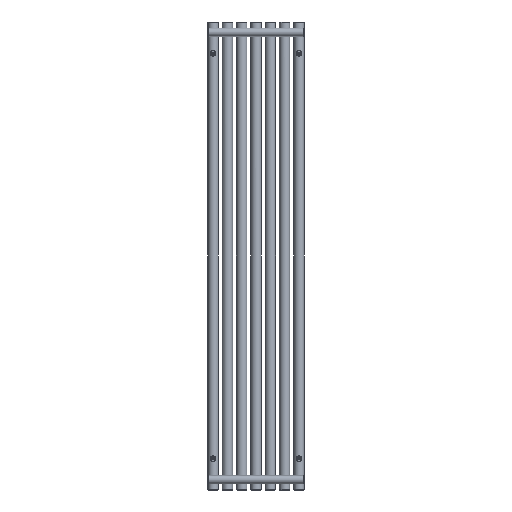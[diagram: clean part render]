
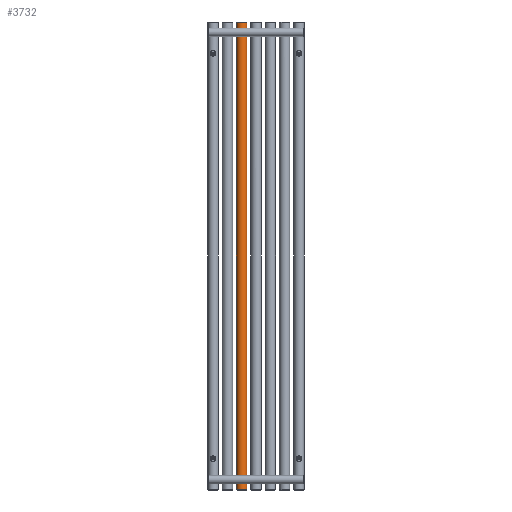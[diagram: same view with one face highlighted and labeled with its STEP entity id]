
A CAD part, front view. The second image highlights one B-rep face of the part: STEP entity #3732.
In plain terms, the highlighted cylindrical face has radius 20 mm (diameter 40 mm), a full revolution.
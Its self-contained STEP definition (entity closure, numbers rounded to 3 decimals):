
#238=FACE_BOUND('',#812,.T.);
#239=FACE_BOUND('',#813,.T.);
#240=FACE_BOUND('',#814,.T.);
#294=LINE('',#6770,#399);
#399=VECTOR('',#4641,20.);
#504=CYLINDRICAL_SURFACE('',#4022,20.);
#562=FACE_OUTER_BOUND('',#811,.T.);
#811=EDGE_LOOP('',(#2578,#2579,#2580,#2581,#2582));
#812=EDGE_LOOP('',(#2583));
#813=EDGE_LOOP('',(#2584));
#814=EDGE_LOOP('',(#2585));
#1107=B_SPLINE_CURVE_WITH_KNOTS('',3,(#6744,#6745,#6746,#6747,#6748,#6749,
#6750,#6751,#6752,#6753,#6754,#6755,#6756,#6757,#6758,#6759,#6760,#6761,
#6762,#6763,#6764),.UNSPECIFIED.,.T.,.F.,(4,1,1,1,1,1,1,1,1,1,1,1,1,1,1,
1,1,1,4),(-5.132,-4.765,-4.399,-4.154,
-3.91,-3.788,-3.666,-3.421,
-3.177,-2.933,-2.688,-2.199,
-1.955,-1.711,-1.466,-1.1,
-0.733,-0.367,0.),.UNSPECIFIED.);
#1108=B_SPLINE_CURVE_WITH_KNOTS('',3,(#6774,#6775,#6776,#6777,#6778,#6779,
#6780,#6781,#6782,#6783,#6784,#6785,#6786,#6787,#6788,#6789,#6790,#6791,
#6792,#6793),.UNSPECIFIED.,.T.,.F.,(4,1,1,1,1,1,1,1,1,1,1,1,1,1,1,1,1,4),
(-5.132,-4.765,-4.399,-4.032,
-3.666,-3.421,-3.177,-2.933,
-2.688,-2.199,-1.955,-1.711,
-1.466,-1.222,-0.978,-0.733,
-0.367,0.),.UNSPECIFIED.);
#1109=B_SPLINE_CURVE_WITH_KNOTS('',3,(#6795,#6796,#6797,#6798,#6799,#6800,
#6801,#6802,#6803,#6804,#6805,#6806,#6807,#6808,#6809,#6810,#6811,#6812),
 .UNSPECIFIED.,.T.,.F.,(4,1,1,1,1,1,1,1,1,1,1,1,1,1,1,4),(-6.15,
-5.711,-5.272,-4.686,-4.393,
-3.807,-3.514,-3.222,-2.929,
-2.636,-2.05,-1.757,-1.318,
-0.879,-0.439,0.),.UNSPECIFIED.);
#1189=CIRCLE('',#4023,20.);
#1190=CIRCLE('',#4024,20.);
#1191=CIRCLE('',#4025,20.);
#1568=VERTEX_POINT('',#6742);
#1569=VERTEX_POINT('',#6766);
#1570=VERTEX_POINT('',#6767);
#1571=VERTEX_POINT('',#6769);
#1572=VERTEX_POINT('',#6773);
#1573=VERTEX_POINT('',#6794);
#1982=EDGE_CURVE('',#1568,#1568,#1107,.T.);
#1983=EDGE_CURVE('',#1569,#1570,#1189,.T.);
#1984=EDGE_CURVE('',#1569,#1571,#294,.T.);
#1985=EDGE_CURVE('',#1571,#1571,#1190,.T.);
#1986=EDGE_CURVE('',#1570,#1569,#1191,.T.);
#1987=EDGE_CURVE('',#1572,#1572,#1108,.T.);
#1988=EDGE_CURVE('',#1573,#1573,#1109,.T.);
#2578=ORIENTED_EDGE('',*,*,#1983,.F.);
#2579=ORIENTED_EDGE('',*,*,#1984,.T.);
#2580=ORIENTED_EDGE('',*,*,#1985,.F.);
#2581=ORIENTED_EDGE('',*,*,#1984,.F.);
#2582=ORIENTED_EDGE('',*,*,#1986,.F.);
#2583=ORIENTED_EDGE('',*,*,#1987,.F.);
#2584=ORIENTED_EDGE('',*,*,#1988,.F.);
#2585=ORIENTED_EDGE('',*,*,#1982,.F.);
#3732=ADVANCED_FACE('',(#562,#238,#239,#240),#504,.T.);
#4022=AXIS2_PLACEMENT_3D('',#6765,#4637,#4638);
#4023=AXIS2_PLACEMENT_3D('',#6768,#4639,#4640);
#4024=AXIS2_PLACEMENT_3D('',#6771,#4642,#4643);
#4025=AXIS2_PLACEMENT_3D('',#6772,#4644,#4645);
#4637=DIRECTION('center_axis',(0.,0.,1.));
#4638=DIRECTION('ref_axis',(-1.,0.,0.));
#4639=DIRECTION('center_axis',(0.,0.,1.));
#4640=DIRECTION('ref_axis',(-1.,0.,0.));
#4641=DIRECTION('',(0.,0.,-1.));
#4642=DIRECTION('center_axis',(0.,0.,-1.));
#4643=DIRECTION('ref_axis',(-1.,0.,0.));
#4644=DIRECTION('center_axis',(0.,0.,1.));
#4645=DIRECTION('ref_axis',(-1.,0.,0.));
#6742=CARTESIAN_POINT('',(-220.,-20.,50.1));
#6744=CARTESIAN_POINT('Ctrl Pts',(-220.,-20.,50.1));
#6745=CARTESIAN_POINT('Ctrl Pts',(-221.611,-20.,50.1));
#6746=CARTESIAN_POINT('Ctrl Pts',(-224.838,-19.598,49.587));
#6747=CARTESIAN_POINT('Ctrl Pts',(-228.411,-18.224,47.307));
#6748=CARTESIAN_POINT('Ctrl Pts',(-230.379,-17.114,44.115));
#6749=CARTESIAN_POINT('Ctrl Pts',(-230.993,-16.707,41.396));
#6750=CARTESIAN_POINT('Ctrl Pts',(-230.992,-16.708,39.163));
#6751=CARTESIAN_POINT('Ctrl Pts',(-230.666,-16.92,36.968));
#6752=CARTESIAN_POINT('Ctrl Pts',(-229.649,-17.552,34.429));
#6753=CARTESIAN_POINT('Ctrl Pts',(-227.534,-18.592,32.083));
#6754=CARTESIAN_POINT('Ctrl Pts',(-224.761,-19.504,30.58));
#6755=CARTESIAN_POINT('Ctrl Pts',(-220.581,-20.198,29.637));
#6756=CARTESIAN_POINT('Ctrl Pts',(-216.165,-19.824,30.09));
#6757=CARTESIAN_POINT('Ctrl Pts',(-212.466,-18.588,32.082));
#6758=CARTESIAN_POINT('Ctrl Pts',(-210.351,-17.556,34.43));
#6759=CARTESIAN_POINT('Ctrl Pts',(-208.927,-16.66,37.98));
#6760=CARTESIAN_POINT('Ctrl Pts',(-208.922,-16.66,42.599));
#6761=CARTESIAN_POINT('Ctrl Pts',(-211.137,-18.052,47.027));
#6762=CARTESIAN_POINT('Ctrl Pts',(-215.165,-19.6,49.585));
#6763=CARTESIAN_POINT('Ctrl Pts',(-218.389,-20.,50.1));
#6764=CARTESIAN_POINT('Ctrl Pts',(-220.,-20.,50.1));
#6765=CARTESIAN_POINT('Origin',(-220.,0.,0.));
#6766=CARTESIAN_POINT('',(-200.,0.,1798.));
#6767=CARTESIAN_POINT('',(-240.,0.,1798.));
#6768=CARTESIAN_POINT('Origin',(-220.,0.,1798.));
#6769=CARTESIAN_POINT('',(-200.,0.,2.));
#6770=CARTESIAN_POINT('',(-200.,0.,0.));
#6771=CARTESIAN_POINT('Origin',(-220.,0.,2.));
#6772=CARTESIAN_POINT('Origin',(-220.,0.,1798.));
#6773=CARTESIAN_POINT('',(-220.,-20.,1770.1));
#6774=CARTESIAN_POINT('Ctrl Pts',(-220.,-20.,1770.1));
#6775=CARTESIAN_POINT('Ctrl Pts',(-221.611,-20.,1770.1));
#6776=CARTESIAN_POINT('Ctrl Pts',(-224.835,-19.6,1769.586));
#6777=CARTESIAN_POINT('Ctrl Pts',(-228.863,-18.052,1767.028));
#6778=CARTESIAN_POINT('Ctrl Pts',(-231.079,-16.659,1762.599));
#6779=CARTESIAN_POINT('Ctrl Pts',(-231.073,-16.66,1757.981));
#6780=CARTESIAN_POINT('Ctrl Pts',(-229.649,-17.552,1754.43));
#6781=CARTESIAN_POINT('Ctrl Pts',(-227.534,-18.59,1752.083));
#6782=CARTESIAN_POINT('Ctrl Pts',(-224.761,-19.502,1750.58));
#6783=CARTESIAN_POINT('Ctrl Pts',(-220.581,-20.202,1749.64));
#6784=CARTESIAN_POINT('Ctrl Pts',(-216.164,-19.82,1750.087));
#6785=CARTESIAN_POINT('Ctrl Pts',(-212.465,-18.589,1752.081));
#6786=CARTESIAN_POINT('Ctrl Pts',(-210.351,-17.555,1754.431));
#6787=CARTESIAN_POINT('Ctrl Pts',(-209.13,-16.793,1757.475));
#6788=CARTESIAN_POINT('Ctrl Pts',(-208.885,-16.626,1760.853));
#6789=CARTESIAN_POINT('Ctrl Pts',(-209.62,-17.113,1764.117));
#6790=CARTESIAN_POINT('Ctrl Pts',(-211.588,-18.224,1767.308));
#6791=CARTESIAN_POINT('Ctrl Pts',(-215.162,-19.597,1769.588));
#6792=CARTESIAN_POINT('Ctrl Pts',(-218.389,-20.,1770.1));
#6793=CARTESIAN_POINT('Ctrl Pts',(-220.,-20.,1770.1));
#6794=CARTESIAN_POINT('',(-230.476,17.037,1600.));
#6795=CARTESIAN_POINT('Ctrl Pts',(-230.476,17.037,1600.));
#6796=CARTESIAN_POINT('Ctrl Pts',(-230.476,17.037,1601.678));
#6797=CARTESIAN_POINT('Ctrl Pts',(-229.709,17.527,1605.001));
#6798=CARTESIAN_POINT('Ctrl Pts',(-226.466,19.121,1609.277));
#6799=CARTESIAN_POINT('Ctrl Pts',(-221.907,20.124,1611.232));
#6800=CARTESIAN_POINT('Ctrl Pts',(-216.486,19.897,1610.787));
#6801=CARTESIAN_POINT('Ctrl Pts',(-212.791,18.762,1608.482));
#6802=CARTESIAN_POINT('Ctrl Pts',(-210.449,17.593,1604.898));
#6803=CARTESIAN_POINT('Ctrl Pts',(-209.484,17.014,1601.706));
#6804=CARTESIAN_POINT('Ctrl Pts',(-209.486,17.014,1598.293));
#6805=CARTESIAN_POINT('Ctrl Pts',(-210.768,17.795,1594.04));
#6806=CARTESIAN_POINT('Ctrl Pts',(-213.647,19.134,1590.785));
#6807=CARTESIAN_POINT('Ctrl Pts',(-218.071,20.041,1588.91));
#6808=CARTESIAN_POINT('Ctrl Pts',(-222.48,20.043,1588.912));
#6809=CARTESIAN_POINT('Ctrl Pts',(-226.787,18.951,1591.157));
#6810=CARTESIAN_POINT('Ctrl Pts',(-229.716,17.533,1594.995));
#6811=CARTESIAN_POINT('Ctrl Pts',(-230.476,17.037,1598.322));
#6812=CARTESIAN_POINT('Ctrl Pts',(-230.476,17.037,1600.));
